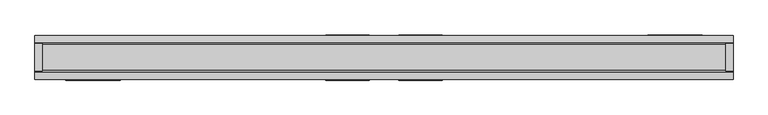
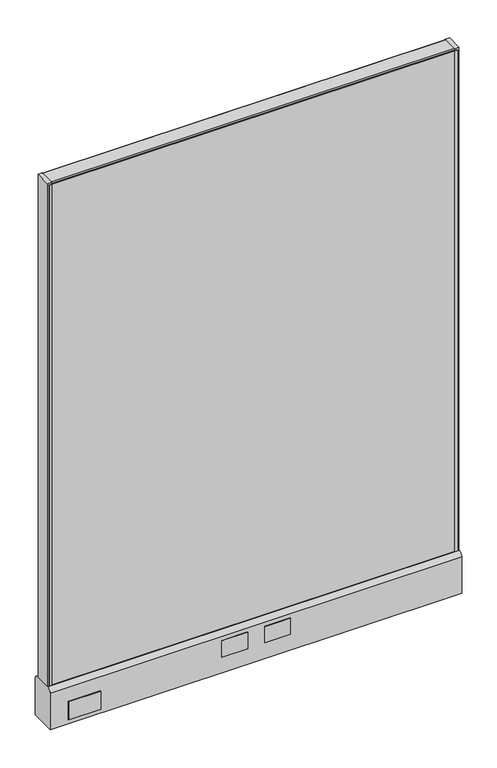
"""IFC4 building model written with IfcOpenShell, lengths in millimetres: furniture geometry."""

import ifcopenshell
import ifcopenshell.guid

model = None  # the IFC model being written
_history = None  # IfcOwnerHistory: only IFC2X3 demands one
_inside = {}  # id of a spatial element -> (the spatial element, [elements in it])
_under = {}  # id of a project, library or spatial element -> (it, [spatial elements below it])
_declared = {}  # id of a project -> (the project, [libraries it declares])
_typed = {}  # id of a type object -> (the type object, [elements of that type])
_made_of = {}  # id of a material, layer set ... -> (it, [elements and type objects made of it])


def new_model(schema):
    """Start an empty IFC model of exactly this schema.

    Asked for "IFC4X3", IfcOpenShell would pick the latest addendum, in which some entities
    have other attributes; the version numbers below select the first issue.
    IFC2X3 requires an IfcOwnerHistory on every rooted entity: one is made here for all.
    """
    global model, _history
    if schema == "IFC4X3":
        model = ifcopenshell.file(schema_version=(4, 3, 0, 0))
    else:
        model = ifcopenshell.file(schema=schema)
    _inside.clear()
    _under.clear()
    _declared.clear()
    _typed.clear()
    _made_of.clear()
    _history = None
    if model.schema == "IFC2X3":
        org = make("IfcOrganization", Name="unknown")
        user = make(
            "IfcPersonAndOrganization",
            ThePerson=make("IfcPerson", FamilyName="unknown"),
            TheOrganization=org,
        )
        app = make(
            "IfcApplication",
            ApplicationDeveloper=org,
            Version="unknown",
            ApplicationFullName="unknown",
            ApplicationIdentifier="unknown",
        )
        _history = make(
            "IfcOwnerHistory",
            OwningUser=user,
            OwningApplication=app,
            ChangeAction="ADDED",
            CreationDate=0,
        )
    return model


def make(cls, **values):
    """One entity of the class cls with the attributes given. An attribute that is None is left unset."""
    return model.create_entity(
        cls, **{name: value for name, value in values.items() if value is not None}
    )


def rooted(cls, **values):
    """An entity with a GlobalId (a new one), such as an element, a storey or a relation."""
    return make(cls, GlobalId=ifcopenshell.guid.new(), OwnerHistory=_history, **values)


def si_unit(unit_type, name, prefix=None):
    """IfcSIUnit, for example si_unit("LENGTHUNIT", "METRE", prefix="MILLI")."""
    return make("IfcSIUnit", UnitType=unit_type, Prefix=prefix, Name=name)


def assignment(units):
    """IfcUnitAssignment: the units of a project."""
    return None if units is None else make("IfcUnitAssignment", Units=units)


def point(xyz):
    """IfcCartesianPoint."""
    return None if xyz is None else make("IfcCartesianPoint", Coordinates=xyz)


def direction(xyz):
    """IfcDirection."""
    return None if xyz is None else make("IfcDirection", DirectionRatios=xyz)


def frame(location, z_axis=None, x_axis=None):
    """IfcAxis2Placement3D, a coordinate frame: its origin and axes. An axis left out is left unset."""
    return make(
        "IfcAxis2Placement3D",
        Location=point(location),
        Axis=direction(z_axis),
        RefDirection=direction(x_axis),
    )


def frame_2d(location, x_axis=None):
    """IfcAxis2Placement2D, a coordinate frame in the plane: its origin and x axis."""
    return make(
        "IfcAxis2Placement2D", Location=point(location), RefDirection=direction(x_axis)
    )


def origin():
    """The frame at (0, 0, 0) with its axes left unset."""
    return frame((0.0, 0.0, 0.0))


def place(relative_to, where):
    """IfcLocalPlacement: puts the frame where relative to a parent placement (None: the world)."""
    return make(
        "IfcLocalPlacement", PlacementRelTo=relative_to, RelativePlacement=where
    )


def context(
    kind, dimensions, precision=None, world=None, true_north=None, identifier=None
):
    """IfcGeometricRepresentationContext, for example the 3D "Model" context."""
    return make(
        "IfcGeometricRepresentationContext",
        ContextIdentifier=identifier,
        ContextType=kind,
        CoordinateSpaceDimension=dimensions,
        Precision=precision,
        WorldCoordinateSystem=world,
        TrueNorth=true_north,
    )


def project(units=None, contexts=None):
    """IfcProject with its units and contexts."""
    return rooted(
        "IfcProject",
        Name="project",
        RepresentationContexts=contexts,
        UnitsInContext=assignment(units),
    )


def spatial(cls, under=None, at=None, **own):
    """A site, building, storey or space (cls), placed at a placement, below another one or the project."""
    s = rooted(cls, ObjectPlacement=at, **own)
    if under is not None:
        _under.setdefault(under.id(), (under, []))[1].append(s)
    return s


def polyline(points):
    """IfcPolyline through the points."""
    return make("IfcPolyline", Points=[point(p) for p in points])


def circle_curve(where, radius):
    """IfcCircle in the frame where."""
    return make("IfcCircle", Position=where, Radius=radius)


def trimmed(basis, trim1, trim2, sense, master):
    """IfcTrimmedCurve: the piece of a basis curve between two trims."""
    return make(
        "IfcTrimmedCurve",
        BasisCurve=basis,
        Trim1=trim1,
        Trim2=trim2,
        SenseAgreement=sense,
        MasterRepresentation=master,
    )


def segment(curve, same_sense, transition):
    """IfcCompositeCurveSegment."""
    return make(
        "IfcCompositeCurveSegment",
        Transition=transition,
        SameSense=same_sense,
        ParentCurve=curve,
    )


def composite_curve(segments, self_intersect=None):
    """IfcCompositeCurve: segments joined end to end."""
    return make("IfcCompositeCurve", Segments=segments, SelfIntersect=self_intersect)


def outline(outer, holes=None, kind="AREA"):
    """IfcArbitraryClosedProfileDef: a profile drawn as a closed curve; with holes, ...WithVoids."""
    if holes is None:
        return make("IfcArbitraryClosedProfileDef", ProfileType=kind, OuterCurve=outer)
    return make(
        "IfcArbitraryProfileDefWithVoids",
        ProfileType=kind,
        OuterCurve=outer,
        InnerCurves=holes,
    )


def extrude(swept, where, along, depth):
    """IfcExtrudedAreaSolid: the profile swept, set in the frame where, extruded along a direction by depth."""
    return make(
        "IfcExtrudedAreaSolid",
        SweptArea=swept,
        Position=where,
        ExtrudedDirection=direction(along),
        Depth=depth,
    )


def shape(context_of_items, identifier, shape_type, items):
    """IfcShapeRepresentation: the items that make up one representation, for example the "Body"."""
    return make(
        "IfcShapeRepresentation",
        ContextOfItems=context_of_items,
        RepresentationIdentifier=identifier,
        RepresentationType=shape_type,
        Items=items,
    )


def source(mapping_origin, context_of_items, identifier, shape_type, items):
    """IfcRepresentationMap: a shape defined once, which mapped items show again and again."""
    return make(
        "IfcRepresentationMap",
        MappingOrigin=mapping_origin,
        MappedRepresentation=shape(context_of_items, identifier, shape_type, items),
    )


def transform(
    local_origin,
    x_axis=None,
    y_axis=None,
    z_axis=None,
    scale=None,
    scale2=None,
    scale3=None,
    uniform=True,
):
    """IfcCartesianTransformationOperator3D, or its non-uniform kind. x_axis, y_axis, z_axis: its Axis1, 2, 3."""
    if uniform:
        return make(
            "IfcCartesianTransformationOperator3D",
            Axis1=direction(x_axis),
            Axis2=direction(y_axis),
            LocalOrigin=point(local_origin),
            Scale=scale,
            Axis3=direction(z_axis),
        )
    return make(
        "IfcCartesianTransformationOperator3DnonUniform",
        Axis1=direction(x_axis),
        Axis2=direction(y_axis),
        LocalOrigin=point(local_origin),
        Scale=scale,
        Axis3=direction(z_axis),
        Scale2=scale2,
        Scale3=scale3,
    )


def mapped(mapping_source, mapping_target):
    """IfcMappedItem: shows the shape of a source again, moved by a transform."""
    return make(
        "IfcMappedItem", MappingSource=mapping_source, MappingTarget=mapping_target
    )


def made_of(thing, what):
    """Note that an element or type object is made of a material, layer set ...; save() writes the relation."""
    if what is not None:
        _made_of.setdefault(what.id(), (what, []))[1].append(thing)
    return thing


def element(
    cls,
    number,
    at=None,
    inside=None,
    cuts=None,
    type_object=None,
    material=None,
    context=None,
    identifier="Body",
    shape_type=None,
    held_by="IfcProductDefinitionShape",
    body=None,
    shapes=None,
    **own,
):
    """One element of the class cls, such as IfcWall. Its Tag is "e" and its number.

    at: its placement. inside: the storey or other place that contains it. cuts: it is an
    opening in that element (IfcRelVoidsElement). A single representation is given by context,
    identifier, shape_type and body (its items); several are given by shapes. held_by: the class
    of the entity that holds the representations. save() writes the other relations.
    """
    e = rooted(cls, Tag="e%d" % number, ObjectPlacement=at, **own)
    if body is not None:
        shapes = [shape(context, identifier, shape_type, body)]
    if shapes is not None:
        e.Representation = make(held_by, Representations=shapes)
    if inside is not None:
        _inside.setdefault(inside.id(), (inside, []))[1].append(e)
    if cuts is not None:
        rooted(
            "IfcRelVoidsElement", RelatingBuildingElement=cuts, RelatedOpeningElement=e
        )
    if type_object is not None:
        _typed.setdefault(type_object.id(), (type_object, []))[1].append(e)
    return made_of(e, material)


def aggregate(whole, parts):
    """IfcRelAggregates: a whole, such as a stair, and the parts it consists of."""
    return rooted("IfcRelAggregates", RelatingObject=whole, RelatedObjects=parts)


def save(model, path):
    """Write the relations noted so far, then the file.

    IfcRelAggregates (storeys below a building ...), IfcRelContainedInSpatialStructure (elements
    in a storey), IfcRelDefinesByType, IfcRelAssociatesMaterial and IfcRelDeclares: one each for
    every whole, place, type object, material and project.
    """
    for whole, parts in _under.values():
        aggregate(whole, parts)
    for where, things in _inside.values():
        rooted(
            "IfcRelContainedInSpatialStructure",
            RelatedElements=things,
            RelatingStructure=where,
        )
    for kind, things in _typed.values():
        rooted("IfcRelDefinesByType", RelatedObjects=things, RelatingType=kind)
    for what, things in _made_of.values():
        rooted("IfcRelAssociatesMaterial", RelatedObjects=things, RelatingMaterial=what)
    for by, libraries in _declared.values():
        rooted("IfcRelDeclares", RelatingContext=by, RelatedDefinitions=libraries)
    model.write(path)


def plane_surface(at):
    """IfcPlane: the flat surface through the origin of the frame at, square to its z axis."""
    return make("IfcPlane", Position=at)


def cylinder_surface(at, radius):
    """IfcCylindricalSurface: all points at the distance radius from the z axis of the frame at."""
    return make("IfcCylindricalSurface", Position=at, Radius=radius)


def advanced_brep(points, edges, surfaces, faces):
    """IfcAdvancedBrep: a solid bounded by faces that lie on surfaces and meet in shared edges.

    An edge is (start, end): straight between two places in points (the first is 0);
    or (start, end, curve); or (start, end, curve, False) where it runs against its curve.
    A face is (place in surfaces, loops), or (place, loops, False) where it looks against
    its surface's normal. A loop lists edges by number (the first is 1), with a minus sign
    where the edge is run from its end to its start. The first loop is the outer one.
    """
    corners = [point(p) for p in points]
    vertices = [make("IfcVertexPoint", VertexGeometry=c) for c in corners]
    made = []
    for start, end, *more in edges:
        made.append(
            make(
                "IfcEdgeCurve",
                EdgeStart=vertices[start],
                EdgeEnd=vertices[end],
                EdgeGeometry=more[0] if more else make("IfcPolyline", Points=[corners[start], corners[end]]),
                SameSense=more[1] if len(more) > 1 else True,
            )
        )
    hull = []
    for where, loops, *sense in faces:
        bounds = []
        for j, loop in enumerate(loops):
            ring = [make("IfcOrientedEdge", EdgeElement=made[abs(k) - 1], Orientation=k > 0) for k in loop]
            bounds.append(
                make(
                    "IfcFaceOuterBound" if j == 0 else "IfcFaceBound",
                    Bound=make("IfcEdgeLoop", EdgeList=ring),
                    Orientation=True,
                )
            )
        hull.append(make("IfcAdvancedFace", Bounds=bounds, FaceSurface=surfaces[where], SameSense=sense[0] if sense else True))
    return make("IfcAdvancedBrep", Outer=make("IfcClosedShell", CfsFaces=hull))


def furniture_f221023d(model_context):
    return source(origin(), model_context, "Body", "SolidModel", [
        extrude(outline(polyline([(-101.6, 39.6875), (-25.4, 39.6875), (-25.4, 38.1), (-101.6, 38.1), (-101.6, 39.6875)])), frame((0.0, 0.0, 60.325), z_axis=(0.0, 0.0, 1.0), x_axis=(1.0, 0.0, 0.0)), (0.0, 0.0, 1.0), 50.8),
        extrude(outline(polyline([(25.4, 39.6875), (101.6, 39.6875), (101.6, 38.1), (25.4, 38.1), (25.4, 39.6875)])), frame((0.0, 0.0, 60.325), z_axis=(0.0, 0.0, 1.0), x_axis=(1.0, 0.0, 0.0)), (0.0, 0.0, 1.0), 50.8),
        extrude(outline(polyline([(-101.6, -38.1), (-25.4, -38.1), (-25.4, -39.6875), (-101.6, -39.6875), (-101.6, -38.1)])), frame((0.0, 0.0, 60.325), z_axis=(0.0, 0.0, 1.0), x_axis=(1.0, 0.0, 0.0)), (0.0, 0.0, 1.0), 50.8),
        extrude(outline(polyline([(25.4, -38.1), (101.6, -38.1), (101.6, -39.6875), (25.4, -39.6875), (25.4, -38.1)])), frame((0.0, 0.0, 60.325), z_axis=(0.0, 0.0, 1.0), x_axis=(1.0, 0.0, 0.0)), (0.0, 0.0, 1.0), 50.8),
        extrude(outline(polyline([(555.625, 38.1), (460.375, 38.1), (460.375, 39.6875), (555.625, 39.6875), (555.625, 38.1)])), frame((0.0, 0.0, 22.225), z_axis=(0.0, 0.0, 1.0), x_axis=(1.0, 0.0, 0.0)), (0.0, 0.0, 1.0), 57.15),
        extrude(outline(polyline([(-460.375, -39.6875), (-555.625, -39.6875), (-555.625, -38.1), (-460.375, -38.1), (-460.375, -39.6875)])), frame((0.0, 0.0, 22.225), z_axis=(0.0, 0.0, 1.0), x_axis=(1.0, 0.0, 0.0)), (0.0, 0.0, 1.0), 57.15),
        advanced_brep(
        [(552.45, 0.0, 0.0), (577.85, 0.0, 0.0), (565.15, 0.0, 0.0), (552.45, 0.0, 4.7625), (577.85, 0.0, 4.7625), (558.8, 0.0, 4.7625), (571.5, 0.0, 4.7625), (558.8, 0.0, 111.125), (571.5, 0.0, 111.125), (565.15, 0.0, 111.125)],
        [
            (0, 1, circle_curve(frame((565.15, 0.0, 0.0), z_axis=(0.0, 0.0, -1.0), x_axis=(1.0, 0.0, 0.0)), 12.7)),
            (1, 2),
            (2, 0),
            (1, 0, circle_curve(frame((565.15, 0.0, 0.0), z_axis=(0.0, 0.0, -1.0), x_axis=(1.0, 0.0, 0.0)), 12.7)),
            (3, 4, circle_curve(frame((565.15, 0.0, 4.7625), z_axis=(0.0, 0.0, -1.0), x_axis=(1.0, 0.0, 0.0)), 12.7)),
            (4, 1),
            (0, 3),
            (4, 3, circle_curve(frame((565.15, 0.0, 4.7625), z_axis=(0.0, 0.0, -1.0), x_axis=(1.0, 0.0, 0.0)), 12.7)),
            (5, 6, circle_curve(frame((565.15, 0.0, 4.7625), z_axis=(0.0, 0.0, -1.0), x_axis=(1.0, 0.0, 0.0)), 6.35)),
            (6, 4),
            (3, 5),
            (6, 5, circle_curve(frame((565.15, 0.0, 4.7625), z_axis=(0.0, 0.0, -1.0), x_axis=(1.0, 0.0, 0.0)), 6.35)),
            (7, 8, circle_curve(frame((565.15, 0.0, 111.125), z_axis=(0.0, 0.0, -1.0), x_axis=(1.0, 0.0, 0.0)), 6.35)),
            (8, 6),
            (5, 7),
            (8, 7, circle_curve(frame((565.15, 0.0, 111.125), z_axis=(0.0, 0.0, -1.0), x_axis=(1.0, 0.0, 0.0)), 6.35)),
            (9, 8),
            (7, 9),
        ],
        [
            plane_surface(frame((565.15, 0.0, 0.0), z_axis=(0.0, 0.0, -1.0), x_axis=(1.0, 0.0, 0.0))),
            cylinder_surface(frame((565.15, 0.0, 114.882153), z_axis=(0.0, 0.0, 1.0), x_axis=(1.0, 0.0, 0.0)), 12.7),
            plane_surface(frame((565.15, 0.0, 4.7625), z_axis=(0.0, 0.0, 1.0), x_axis=(1.0, 0.0, 0.0))),
            cylinder_surface(frame((565.15, 0.0, 114.882153), z_axis=(0.0, 0.0, 1.0), x_axis=(1.0, 0.0, 0.0)), 6.35),
            plane_surface(frame((565.15, 0.0, 111.125), z_axis=(0.0, 0.0, 1.0), x_axis=(1.0, 0.0, 0.0))),
        ],
        [
            (0, [[1, 2, 3]]),
            (0, [[4, -3, -2]]),
            (1, [[5, 6, -1, 7]]),
            (1, [[8, -7, -4, -6]]),
            (2, [[9, 10, -5, 11]]),
            (2, [[12, -11, -8, -10]]),
            (3, [[13, 14, -9, 15]]),
            (3, [[16, -15, -12, -14]]),
            (4, [[17, -13, 18]]),
            (4, [[-18, -16, -17]]),
        ],
    ),
        advanced_brep(
        [(-577.85, 0.0, 4.7625), (-552.45, 0.0, 4.7625), (-552.45, 0.0, 0.0), (-577.85, 0.0, 0.0), (-571.5, 0.0, 4.7625), (-558.8, 0.0, 4.7625), (-571.5, 0.0, 111.125), (-558.8, 0.0, 111.125), (-565.15, 0.0, 111.125), (-565.15, 0.0, 0.0)],
        [
            (0, 1, circle_curve(frame((-565.15, 0.0, 4.7625), z_axis=(0.0, 0.0, -1.0), x_axis=(1.0, 0.0, 0.0)), 12.7)),
            (1, 2),
            (2, 3, circle_curve(frame((-565.15, 0.0, 0.0), z_axis=(0.0, 0.0, 1.0), x_axis=(1.0, 0.0, 0.0)), 12.7)),
            (3, 0),
            (1, 0, circle_curve(frame((-565.15, 0.0, 4.7625), z_axis=(0.0, 0.0, -1.0), x_axis=(1.0, 0.0, 0.0)), 12.7)),
            (3, 2, circle_curve(frame((-565.15, 0.0, 0.0), z_axis=(0.0, 0.0, 1.0), x_axis=(1.0, 0.0, 0.0)), 12.7)),
            (4, 5, circle_curve(frame((-565.15, 0.0, 4.7625), z_axis=(0.0, 0.0, -1.0), x_axis=(1.0, 0.0, 0.0)), 6.35)),
            (5, 1),
            (0, 4),
            (5, 4, circle_curve(frame((-565.15, 0.0, 4.7625), z_axis=(0.0, 0.0, -1.0), x_axis=(1.0, 0.0, 0.0)), 6.35)),
            (6, 7, circle_curve(frame((-565.15, 0.0, 111.125), z_axis=(0.0, 0.0, -1.0), x_axis=(1.0, 0.0, 0.0)), 6.35)),
            (7, 5),
            (4, 6),
            (7, 6, circle_curve(frame((-565.15, 0.0, 111.125), z_axis=(0.0, 0.0, -1.0), x_axis=(1.0, 0.0, 0.0)), 6.35)),
            (8, 7),
            (6, 8),
            (2, 9),
            (9, 3),
        ],
        [
            cylinder_surface(frame((-565.15, 0.0, 123.825), z_axis=(0.0, 0.0, 1.0), x_axis=(1.0, 0.0, 0.0)), 12.7),
            plane_surface(frame((-565.15, 0.0, 4.7625), z_axis=(0.0, 0.0, 1.0), x_axis=(1.0, 0.0, 0.0))),
            cylinder_surface(frame((-565.15, 0.0, 123.825), z_axis=(0.0, 0.0, 1.0), x_axis=(1.0, 0.0, 0.0)), 6.35),
            plane_surface(frame((-565.15, 0.0, 111.125), z_axis=(0.0, 0.0, 1.0), x_axis=(1.0, 0.0, 0.0))),
            plane_surface(frame((-565.15, 0.0, 0.0), z_axis=(0.0, 0.0, -1.0), x_axis=(1.0, 0.0, 0.0))),
        ],
        [
            (0, [[1, 2, 3, 4]]),
            (0, [[5, -4, 6, -2]]),
            (1, [[7, 8, -1, 9]]),
            (1, [[10, -9, -5, -8]]),
            (2, [[11, 12, -7, 13]]),
            (2, [[14, -13, -10, -12]]),
            (3, [[15, -11, 16]]),
            (3, [[-16, -14, -15]]),
            (4, [[-3, 17, 18]]),
            (4, [[-6, -18, -17]]),
        ],
    ),
        extrude(outline(polyline([(-609.6, 23.8125), (-596.9, 23.8125), (-596.9, -23.8125), (-609.6, -23.8125), (-609.6, 23.8125)])), frame((0.0, 0.0, 136.525), z_axis=(0.0, 0.0, 1.0), x_axis=(1.0, 0.0, 0.0)), (0.0, 0.0, 1.0), 1574.8),
        extrude(outline(polyline([(596.9, -23.8125), (596.9, 23.8125), (609.6, 23.8125), (609.6, -23.8125), (596.9, -23.8125)])), frame((0.0, 0.0, 136.525), z_axis=(0.0, 0.0, 1.0), x_axis=(1.0, 0.0, 0.0)), (0.0, 0.0, 1.0), 1574.8),
        extrude(outline(polyline([(-596.9, 25.4), (-596.9, 23.8125), (-604.8375, 23.8125), (-604.8375, 25.4), (-596.9, 25.4)])), frame((0.0, 0.0, 136.525), z_axis=(0.0, 0.0, 1.0), x_axis=(1.0, 0.0, 0.0)), (0.0, 0.0, 1.0), 1568.45),
        extrude(outline(polyline([(-596.9, -25.4), (-604.8375, -25.4), (-604.8375, -23.8125), (-596.9, -23.8125), (-596.9, -25.4)])), frame((0.0, 0.0, 136.525), z_axis=(0.0, 0.0, 1.0), x_axis=(1.0, 0.0, 0.0)), (0.0, 0.0, 1.0), 1568.45),
        extrude(outline(polyline([(604.8375, 23.8125), (596.9, 23.8125), (596.9, 25.4), (604.8375, 25.4), (604.8375, 23.8125)])), frame((0.0, 0.0, 136.525), z_axis=(0.0, 0.0, 1.0), x_axis=(1.0, 0.0, 0.0)), (0.0, 0.0, 1.0), 1568.45),
        extrude(outline(polyline([(596.9, -25.4), (596.9, -23.8125), (604.8375, -23.8125), (604.8375, -25.4), (596.9, -25.4)])), frame((0.0, 0.0, 136.525), z_axis=(0.0, 0.0, 1.0), x_axis=(1.0, 0.0, 0.0)), (0.0, 0.0, 1.0), 1568.45),
        extrude(outline(composite_curve([segment(trimmed(circle_curve(frame_2d((22.225, 1708.15)), 3.175), [point((22.225, 1711.325))], [point((25.4, 1708.15))], False, "CARTESIAN"), True, "CONTINUOUS"), segment(polyline([(25.4, 1708.15), (25.4, 1704.975), (-25.4, 1704.975), (-25.4, 1708.15)]), True, "CONTINUOUS"), segment(trimmed(circle_curve(frame_2d((-22.225, 1708.15)), 3.175), [point((-25.4, 1708.15))], [point((-22.225, 1711.325))], False, "CARTESIAN"), True, "CONTINUOUS"), segment(polyline([(-22.225, 1711.325), (22.225, 1711.325)]), True, "CONTINUOUS")], self_intersect=False)), frame((-596.9, 0.0, 0.0), z_axis=(1.0, 0.0, 0.0), x_axis=(0.0, 1.0, 0.0)), (0.0, 0.0, 1.0), 1193.8),
        extrude(outline(composite_curve([segment(trimmed(circle_curve(frame_2d((25.4, 123.825)), 12.7), [point((25.4, 136.525))], [point((38.1, 123.825))], False, "CARTESIAN"), True, "CONTINUOUS"), segment(polyline([(38.1, 123.825), (38.1, 9.525), (-38.1, 9.525), (-38.1, 123.825)]), True, "CONTINUOUS"), segment(trimmed(circle_curve(frame_2d((-25.4, 123.825)), 12.7), [point((-38.1, 123.825))], [point((-25.4, 136.525))], False, "CARTESIAN"), True, "CONTINUOUS"), segment(polyline([(-25.4, 136.525), (25.4, 136.525)]), True, "CONTINUOUS")], self_intersect=False)), frame((-609.6, 0.0, 0.0), z_axis=(1.0, 0.0, 0.0), x_axis=(0.0, 1.0, 0.0)), (0.0, 0.0, 1.0), 1219.2),
        extrude(outline(polyline([(596.9, 23.8125), (596.9, -23.8125), (-596.9, -23.8125), (-596.9, 23.8125), (596.9, 23.8125)])), frame((0.0, 0.0, 136.525), z_axis=(0.0, 0.0, 1.0), x_axis=(1.0, 0.0, 0.0)), (0.0, 0.0, 1.0), 1568.45),
    ])


if __name__ == "__main__":
    model = new_model("IFC4")
    model_context = context("Model", 3, world=origin())
    ifc_project = project(units=[si_unit("LENGTHUNIT", "METRE", prefix="MILLI")], contexts=[model_context])
    site = spatial("IfcSite", under=ifc_project)
    building = spatial("IfcBuilding", under=site)
    placement = place(None, origin())
    furniture_shape = furniture_f221023d(model_context)
    element("IfcFurniture", 1, ObjectType="HermanMiller_ActionOffice_A1110_Hard-SurfacedPanelStandardBase : 67\"H x 48\"W-G", at=placement, inside=building, context=model_context, shape_type="MappedRepresentation", body=[
        mapped(furniture_shape, transform((0.0, 0.0, 0.0), x_axis=(1.0, 0.0, 0.0), y_axis=(0.0, 1.0, 0.0), z_axis=(0.0, 0.0, 1.0))),
    ])
    save(model, "model.ifc")
